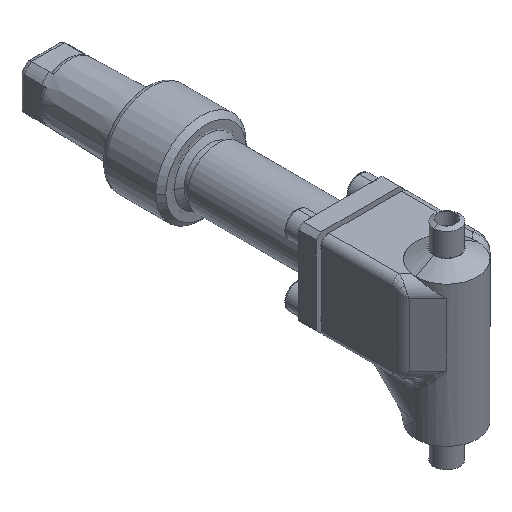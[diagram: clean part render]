
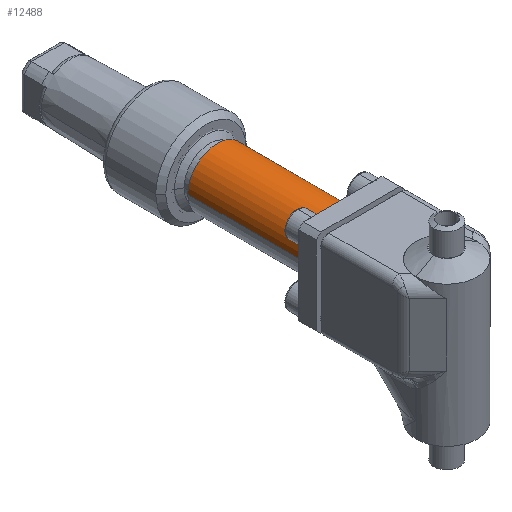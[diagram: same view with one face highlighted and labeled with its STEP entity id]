
A CAD part, isometric view. The second image highlights one B-rep face of the part: STEP entity #12488.
In plain terms, the highlighted cylindrical face has radius 11.75 mm (diameter 23.5 mm), a partial arc.
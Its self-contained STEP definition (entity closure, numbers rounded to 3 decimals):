
#284 = ORIENTED_EDGE ( 'NONE', *, *, #7930, .T. ) ;
#419 = VERTEX_POINT ( 'NONE', #5137 ) ;
#590 = EDGE_CURVE ( 'NONE', #419, #15680, #5246, .T. ) ;
#1622 = LINE ( 'NONE', #1623, #1624 ) ;
#1623 = CARTESIAN_POINT ( 'NONE',  ( 11.75, 0., -57. ) ) ;
#1624 = VECTOR ( 'NONE', #1625, 1000. ) ;
#1625 = DIRECTION ( 'NONE',  ( 0., 0., 1. ) ) ;
#2330 = ORIENTED_EDGE ( 'NONE', *, *, #10521, .F. ) ;
#4552 = VERTEX_POINT ( 'NONE', #15193 ) ;
#4603 = VERTEX_POINT ( 'NONE', #15210 ) ;
#4881 = EDGE_CURVE ( 'NONE', #4552, #4603, #15309, .T. ) ;
#5137 = CARTESIAN_POINT ( 'NONE',  ( 11.75, 0., -7.2 ) ) ;
#5246 = CIRCLE ( 'NONE', #5247, 11.75 ) ;
#5247 = AXIS2_PLACEMENT_3D ( 'NONE', #5248, #5249, #5250 ) ;
#5248 = CARTESIAN_POINT ( 'NONE',  ( 0., 0., -7.2 ) ) ;
#5249 = DIRECTION ( 'NONE',  ( 0., 0., -1. ) ) ;
#5250 = DIRECTION ( 'NONE',  ( 1., 0., 0. ) ) ;
#7091 = LINE ( 'NONE', #7092, #7093 ) ;
#7092 = CARTESIAN_POINT ( 'NONE',  ( -11.75, 0., -57. ) ) ;
#7093 = VECTOR ( 'NONE', #7094, 1000. ) ;
#7094 = DIRECTION ( 'NONE',  ( 0., 0., 1. ) ) ;
#7930 = EDGE_CURVE ( 'NONE', #4552, #419, #1622, .T. ) ;
#10521 = EDGE_CURVE ( 'NONE', #4603, #15680, #7091, .T. ) ;
#11292 = ORIENTED_EDGE ( 'NONE', *, *, #590, .T. ) ;
#12036 = CARTESIAN_POINT ( 'NONE',  ( -11.75, 0., -7.2 ) ) ;
#12327 = EDGE_LOOP ( 'NONE', ( #2330, #14863, #284, #11292 ) ) ;
#12488 = ADVANCED_FACE ( 'NONE', ( #12807 ), #12823, .T. ) ;
#12807 = FACE_OUTER_BOUND ( 'NONE', #12327, .T. ) ;
#12823 = CYLINDRICAL_SURFACE ( 'NONE', #12824, 11.75 ) ;
#12824 = AXIS2_PLACEMENT_3D ( 'NONE', #12825, #12826, #12827 ) ;
#12825 = CARTESIAN_POINT ( 'NONE',  ( 0., 0., -57. ) ) ;
#12826 = DIRECTION ( 'NONE',  ( 0., 0., 1. ) ) ;
#12827 = DIRECTION ( 'NONE',  ( 1., 0., 0. ) ) ;
#14863 = ORIENTED_EDGE ( 'NONE', *, *, #4881, .F. ) ;
#15193 = CARTESIAN_POINT ( 'NONE',  ( 11.75, 0., -57. ) ) ;
#15210 = CARTESIAN_POINT ( 'NONE',  ( -11.75, 0., -57. ) ) ;
#15309 = CIRCLE ( 'NONE', #15313, 11.75 ) ;
#15313 = AXIS2_PLACEMENT_3D ( 'NONE', #15314, #15315, #15316 ) ;
#15314 = CARTESIAN_POINT ( 'NONE',  ( 0., 0., -57. ) ) ;
#15315 = DIRECTION ( 'NONE',  ( 0., 0., -1. ) ) ;
#15316 = DIRECTION ( 'NONE',  ( -1., 0., 0. ) ) ;
#15680 = VERTEX_POINT ( 'NONE', #12036 ) ;
